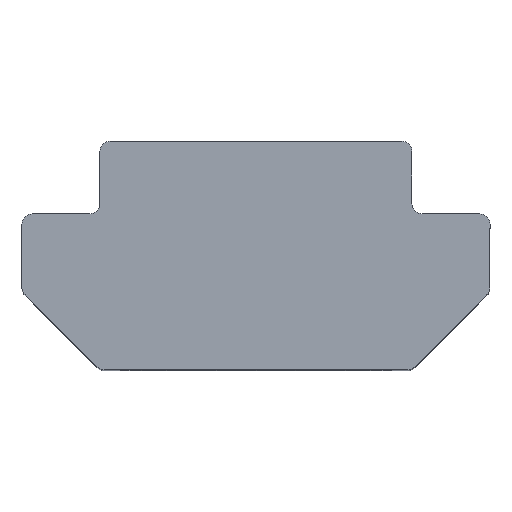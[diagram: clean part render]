
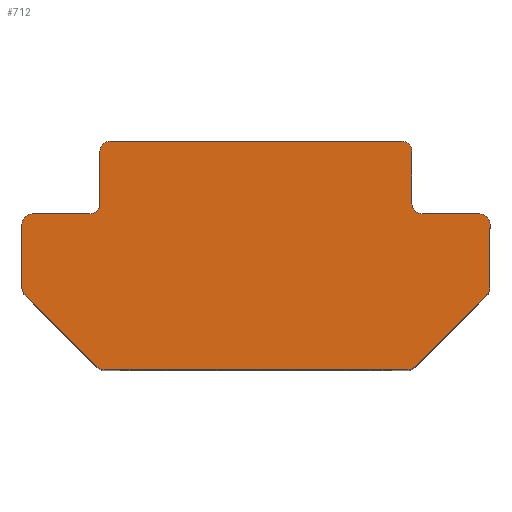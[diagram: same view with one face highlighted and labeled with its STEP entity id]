
A CAD part, top view. The second image highlights one B-rep face of the part: STEP entity #712.
In plain terms, the highlighted planar face has unit normal (0, 0, 1).
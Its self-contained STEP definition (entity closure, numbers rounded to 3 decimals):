
#33=PLANE('',#773);
#62=FACE_OUTER_BOUND('',#103,.T.);
#103=EDGE_LOOP('',(#584,#585,#586,#587,#588,#589,#590,#591,#592,#593,#594,
#595,#596,#597,#598,#599,#600,#601,#602,#603));
#125=CIRCLE('',#774,0.2);
#126=CIRCLE('',#775,0.2);
#127=CIRCLE('',#776,0.2);
#128=CIRCLE('',#777,0.2);
#129=CIRCLE('',#778,0.2);
#130=CIRCLE('',#779,0.2);
#131=CIRCLE('',#780,0.2);
#132=CIRCLE('',#781,0.2);
#133=CIRCLE('',#782,0.2);
#134=CIRCLE('',#783,0.2);
#184=LINE('',#1988,#235);
#186=LINE('',#1993,#237);
#190=LINE('',#2002,#241);
#194=LINE('',#2011,#245);
#200=LINE('',#2024,#251);
#204=LINE('',#2033,#255);
#208=LINE('',#2042,#259);
#212=LINE('',#2051,#263);
#216=LINE('',#2060,#267);
#220=LINE('',#2069,#271);
#235=VECTOR('',#872,1000.);
#237=VECTOR('',#876,1000.);
#241=VECTOR('',#882,1000.);
#245=VECTOR('',#888,1000.);
#251=VECTOR('',#896,1000.);
#255=VECTOR('',#902,1000.);
#259=VECTOR('',#908,1000.);
#263=VECTOR('',#914,1000.);
#267=VECTOR('',#920,1000.);
#271=VECTOR('',#926,1000.);
#305=VERTEX_POINT('',#1985);
#306=VERTEX_POINT('',#1987);
#307=VERTEX_POINT('',#1991);
#308=VERTEX_POINT('',#1992);
#311=VERTEX_POINT('',#2000);
#312=VERTEX_POINT('',#2001);
#315=VERTEX_POINT('',#2009);
#316=VERTEX_POINT('',#2010);
#321=VERTEX_POINT('',#2021);
#322=VERTEX_POINT('',#2023);
#325=VERTEX_POINT('',#2030);
#326=VERTEX_POINT('',#2032);
#329=VERTEX_POINT('',#2039);
#330=VERTEX_POINT('',#2041);
#333=VERTEX_POINT('',#2048);
#334=VERTEX_POINT('',#2050);
#337=VERTEX_POINT('',#2057);
#338=VERTEX_POINT('',#2059);
#341=VERTEX_POINT('',#2066);
#342=VERTEX_POINT('',#2068);
#392=EDGE_CURVE('',#306,#305,#184,.T.);
#394=EDGE_CURVE('',#307,#308,#186,.T.);
#398=EDGE_CURVE('',#311,#312,#190,.T.);
#402=EDGE_CURVE('',#315,#316,#194,.T.);
#408=EDGE_CURVE('',#322,#321,#200,.T.);
#412=EDGE_CURVE('',#326,#325,#204,.T.);
#416=EDGE_CURVE('',#330,#329,#208,.T.);
#420=EDGE_CURVE('',#334,#333,#212,.T.);
#424=EDGE_CURVE('',#338,#337,#216,.T.);
#428=EDGE_CURVE('',#342,#341,#220,.T.);
#430=EDGE_CURVE('',#305,#307,#125,.T.);
#431=EDGE_CURVE('',#308,#311,#126,.T.);
#432=EDGE_CURVE('',#312,#315,#127,.T.);
#433=EDGE_CURVE('',#316,#322,#128,.T.);
#434=EDGE_CURVE('',#321,#326,#129,.T.);
#435=EDGE_CURVE('',#325,#330,#130,.T.);
#436=EDGE_CURVE('',#329,#334,#131,.T.);
#437=EDGE_CURVE('',#333,#338,#132,.T.);
#438=EDGE_CURVE('',#337,#342,#133,.T.);
#439=EDGE_CURVE('',#341,#306,#134,.T.);
#584=ORIENTED_EDGE('',*,*,#392,.T.);
#585=ORIENTED_EDGE('',*,*,#430,.T.);
#586=ORIENTED_EDGE('',*,*,#394,.T.);
#587=ORIENTED_EDGE('',*,*,#431,.T.);
#588=ORIENTED_EDGE('',*,*,#398,.T.);
#589=ORIENTED_EDGE('',*,*,#432,.T.);
#590=ORIENTED_EDGE('',*,*,#402,.T.);
#591=ORIENTED_EDGE('',*,*,#433,.T.);
#592=ORIENTED_EDGE('',*,*,#408,.T.);
#593=ORIENTED_EDGE('',*,*,#434,.T.);
#594=ORIENTED_EDGE('',*,*,#412,.T.);
#595=ORIENTED_EDGE('',*,*,#435,.T.);
#596=ORIENTED_EDGE('',*,*,#416,.T.);
#597=ORIENTED_EDGE('',*,*,#436,.T.);
#598=ORIENTED_EDGE('',*,*,#420,.T.);
#599=ORIENTED_EDGE('',*,*,#437,.T.);
#600=ORIENTED_EDGE('',*,*,#424,.T.);
#601=ORIENTED_EDGE('',*,*,#438,.T.);
#602=ORIENTED_EDGE('',*,*,#428,.T.);
#603=ORIENTED_EDGE('',*,*,#439,.T.);
#712=ADVANCED_FACE('',(#62),#33,.T.);
#773=AXIS2_PLACEMENT_3D('',#2071,#928,#929);
#774=AXIS2_PLACEMENT_3D('',#2072,#930,#931);
#775=AXIS2_PLACEMENT_3D('',#2073,#932,#933);
#776=AXIS2_PLACEMENT_3D('',#2074,#934,#935);
#777=AXIS2_PLACEMENT_3D('',#2075,#936,#937);
#778=AXIS2_PLACEMENT_3D('',#2076,#938,#939);
#779=AXIS2_PLACEMENT_3D('',#2077,#940,#941);
#780=AXIS2_PLACEMENT_3D('',#2078,#942,#943);
#781=AXIS2_PLACEMENT_3D('',#2079,#944,#945);
#782=AXIS2_PLACEMENT_3D('',#2080,#946,#947);
#783=AXIS2_PLACEMENT_3D('',#2081,#948,#949);
#872=DIRECTION('',(0.707,-0.707,0.));
#876=DIRECTION('',(1.,0.,0.));
#882=DIRECTION('',(0.707,0.707,0.));
#888=DIRECTION('',(0.,1.,0.));
#896=DIRECTION('',(-1.,0.,0.));
#902=DIRECTION('',(0.,1.,0.));
#908=DIRECTION('',(-1.,0.,0.));
#914=DIRECTION('',(0.,-1.,0.));
#920=DIRECTION('',(-1.,0.,0.));
#926=DIRECTION('',(0.,-1.,0.));
#928=DIRECTION('center_axis',(0.,0.,1.));
#929=DIRECTION('ref_axis',(1.,0.,0.));
#930=DIRECTION('center_axis',(0.,0.,1.));
#931=DIRECTION('ref_axis',(1.,0.,0.));
#932=DIRECTION('center_axis',(0.,0.,1.));
#933=DIRECTION('ref_axis',(1.,0.,0.));
#934=DIRECTION('center_axis',(0.,0.,1.));
#935=DIRECTION('ref_axis',(1.,0.,0.));
#936=DIRECTION('center_axis',(0.,0.,1.));
#937=DIRECTION('ref_axis',(1.,0.,0.));
#938=DIRECTION('center_axis',(0.,0.,-1.));
#939=DIRECTION('ref_axis',(1.,0.,0.));
#940=DIRECTION('center_axis',(0.,0.,1.));
#941=DIRECTION('ref_axis',(1.,0.,0.));
#942=DIRECTION('center_axis',(0.,0.,1.));
#943=DIRECTION('ref_axis',(1.,0.,0.));
#944=DIRECTION('center_axis',(0.,0.,-1.));
#945=DIRECTION('ref_axis',(1.,0.,0.));
#946=DIRECTION('center_axis',(0.,0.,1.));
#947=DIRECTION('ref_axis',(1.,0.,0.));
#948=DIRECTION('center_axis',(0.,0.,1.));
#949=DIRECTION('ref_axis',(1.,0.,0.));
#1985=CARTESIAN_POINT('',(-3.059,0.059,5.));
#1987=CARTESIAN_POINT('',(-4.441,1.441,5.));
#1988=CARTESIAN_POINT('',(-4.5,1.5,5.));
#1991=CARTESIAN_POINT('',(-2.917,0.,5.));
#1992=CARTESIAN_POINT('',(2.917,0.,5.));
#1993=CARTESIAN_POINT('',(-3.,0.,5.));
#2000=CARTESIAN_POINT('',(3.059,0.059,5.));
#2001=CARTESIAN_POINT('',(4.441,1.441,5.));
#2002=CARTESIAN_POINT('',(3.,0.,5.));
#2009=CARTESIAN_POINT('',(4.5,1.583,5.));
#2010=CARTESIAN_POINT('',(4.5,2.8,5.));
#2011=CARTESIAN_POINT('',(4.5,1.5,5.));
#2021=CARTESIAN_POINT('',(3.2,3.,5.));
#2023=CARTESIAN_POINT('',(4.3,3.,5.));
#2024=CARTESIAN_POINT('',(4.5,3.,5.));
#2030=CARTESIAN_POINT('',(3.,4.2,5.));
#2032=CARTESIAN_POINT('',(3.,3.2,5.));
#2033=CARTESIAN_POINT('',(3.,3.,5.));
#2039=CARTESIAN_POINT('',(-2.8,4.4,5.));
#2041=CARTESIAN_POINT('',(2.8,4.4,5.));
#2042=CARTESIAN_POINT('',(3.,4.4,5.));
#2048=CARTESIAN_POINT('',(-3.,3.2,5.));
#2050=CARTESIAN_POINT('',(-3.,4.2,5.));
#2051=CARTESIAN_POINT('',(-3.,4.4,5.));
#2057=CARTESIAN_POINT('',(-4.3,3.,5.));
#2059=CARTESIAN_POINT('',(-3.2,3.,5.));
#2060=CARTESIAN_POINT('',(-3.,3.,5.));
#2066=CARTESIAN_POINT('',(-4.5,1.583,5.));
#2068=CARTESIAN_POINT('',(-4.5,2.8,5.));
#2069=CARTESIAN_POINT('',(-4.5,3.,5.));
#2071=CARTESIAN_POINT('Origin',(0.,0.,5.));
#2072=CARTESIAN_POINT('Origin',(-2.917,0.2,5.));
#2073=CARTESIAN_POINT('Origin',(2.917,0.2,5.));
#2074=CARTESIAN_POINT('Origin',(4.3,1.583,5.));
#2075=CARTESIAN_POINT('Origin',(4.3,2.8,5.));
#2076=CARTESIAN_POINT('Origin',(3.2,3.2,5.));
#2077=CARTESIAN_POINT('Origin',(2.8,4.2,5.));
#2078=CARTESIAN_POINT('Origin',(-2.8,4.2,5.));
#2079=CARTESIAN_POINT('Origin',(-3.2,3.2,5.));
#2080=CARTESIAN_POINT('Origin',(-4.3,2.8,5.));
#2081=CARTESIAN_POINT('Origin',(-4.3,1.583,5.));
